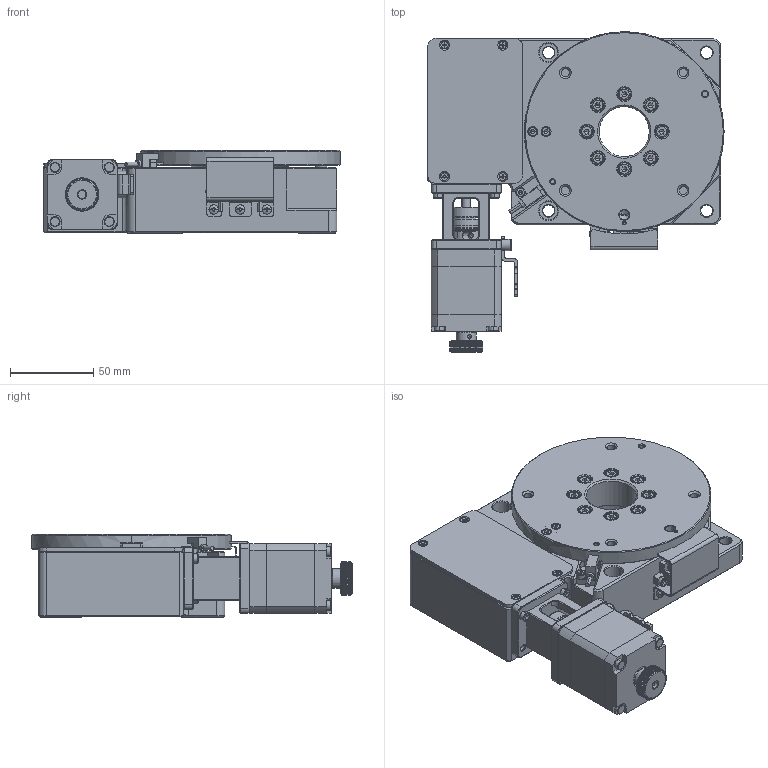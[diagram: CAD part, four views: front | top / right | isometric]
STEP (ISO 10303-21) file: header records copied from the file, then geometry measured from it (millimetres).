
FILE_DESCRIPTION (( 'STEP AP214' ), '1' );
FILE_NAME ('TRA12018-L1-M28.STEP', '2025-01-03T08:04:26', ( '' ), ( '' ), 'SwSTEP 2.0', 'SolidWorks 2020', '' );
FILE_SCHEMA (( 'AUTOMOTIVE_DESIGN' ));
Length unit declared in the file: millimetre
Products named in the file (1): TRA12018-L1-M28
Bounding box: 178 x 192.5 x 50 mm (x, y, z)
Volume: 883587.3 mm3; surface area: 139754.4 mm2
Topology: 6 solids, 61 shells, 2432 faces, 6266 edges, 3916 vertices
Faces by surface type: plane 1110, cylinder 674, cone 420, torus 207, bspline 15, sphere 6
Full cylindrical faces by diameter (mm): 5 x2
Entity records: 103014 total; most frequent: CARTESIAN_POINT 17251, DIRECTION 12392, ORIENTED_EDGE 12310, EDGE_CURVE 6155, AXIS2_PLACEMENT_3D 4632, VERTEX_POINT 3915, LINE 3128, VECTOR 3128
